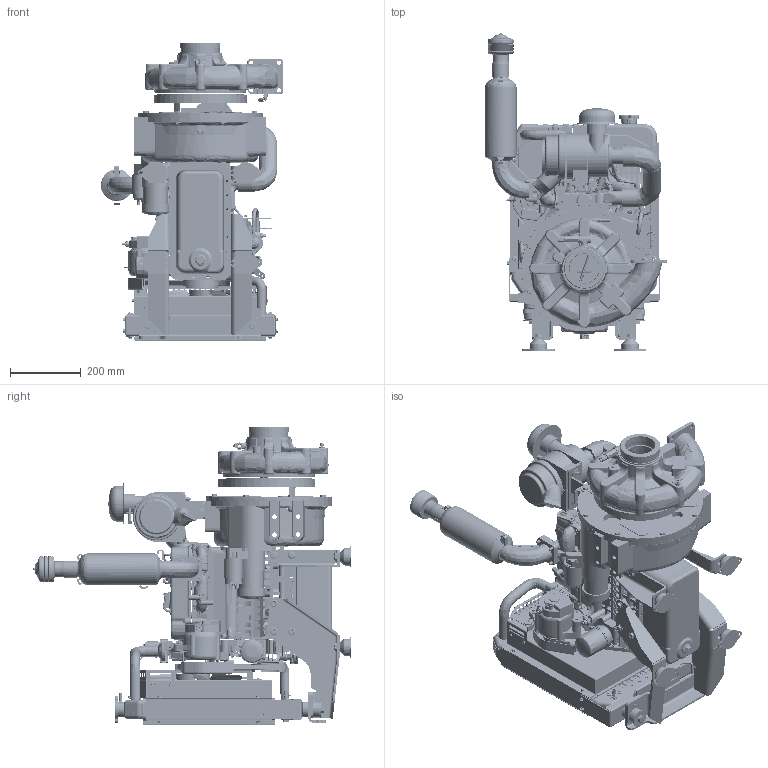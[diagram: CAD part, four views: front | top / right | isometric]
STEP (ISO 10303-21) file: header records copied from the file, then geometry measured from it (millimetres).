
FILE_DESCRIPTION (( 'STEP AP214' ), '1' );
FILE_NAME ('HPX300_400-KBD24 PUMP ASSEMBLY.STEP', '2017-10-27T15:34:23', ( '' ), ( '' ), 'SwSTEP 2.0', 'SolidWorks 2016', '' );
FILE_SCHEMA (( 'AUTOMOTIVE_DESIGN' ));
Length unit declared in the file: millimetre
Products named in the file (1): HPX300_400-KBD24 PUMP ASSEMBLY
Bounding box: 516.7 x 899.76 x 845.52 mm (x, y, z)
Surface area: 5131520.5 mm2 (no closed solid volume)
Topology: 0 solids, 556 shells, 8567 faces, 33645 edges, 24704 vertices
Faces by surface type: plane 3515, cylinder 2563, bspline 1702, cone 534, torus 236, sphere 17
Entity records: 673979 total; most frequent: CARTESIAN_POINT 325797, ORIENTED_EDGE 50784, DIRECTION 45184, EDGE_CURVE 33535, VERTEX_POINT 24710, AXIS2_PLACEMENT_3D 15327, VECTOR 14530, LINE 14530
